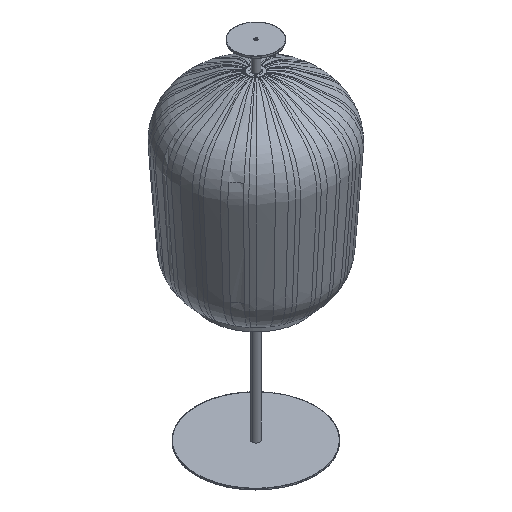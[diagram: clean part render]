
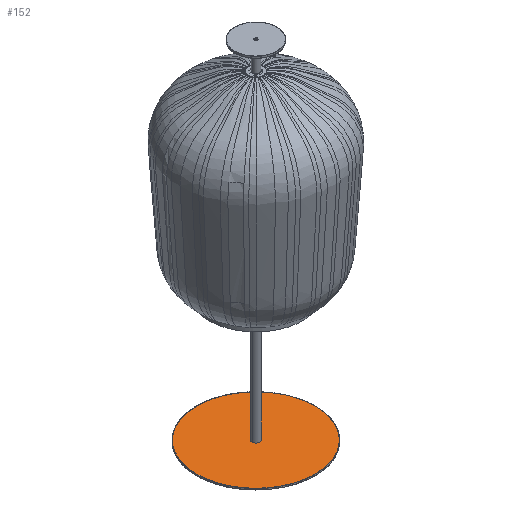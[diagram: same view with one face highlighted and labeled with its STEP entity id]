
A CAD part, isometric view. The second image highlights one B-rep face of the part: STEP entity #152.
In plain terms, the highlighted planar face has unit normal (0, 0, 1).
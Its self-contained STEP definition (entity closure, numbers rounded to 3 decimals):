
#25=FACE_BOUND('',#430,.T.);
#152=ADVANCED_FACE('',(#287,#25),#2007,.T.);
#287=FACE_OUTER_BOUND('',#429,.T.);
#429=EDGE_LOOP('',(#1025,#1026));
#430=EDGE_LOOP('',(#1027,#1028));
#1025=ORIENTED_EDGE('',*,*,#1406,.T.);
#1026=ORIENTED_EDGE('',*,*,#1413,.T.);
#1027=ORIENTED_EDGE('',*,*,#1392,.F.);
#1028=ORIENTED_EDGE('',*,*,#1391,.F.);
#1391=EDGE_CURVE('',#1981,#1982,#1750,.T.);
#1392=EDGE_CURVE('',#1982,#1981,#1751,.T.);
#1406=EDGE_CURVE('',#1993,#1994,#1764,.T.);
#1413=EDGE_CURVE('',#1994,#1993,#1770,.T.);
#1750=(
BOUNDED_CURVE()
B_SPLINE_CURVE(2,(#33934,#33935,#33936,#33937,#33938),.UNSPECIFIED.,.F.,
 .F.)
B_SPLINE_CURVE_WITH_KNOTS((3,2,3),(-31.416,-15.708,0.),
 .UNSPECIFIED.)
CURVE()
GEOMETRIC_REPRESENTATION_ITEM()
RATIONAL_B_SPLINE_CURVE((1.,0.707,1.,0.707,1.))
REPRESENTATION_ITEM('')
);
#1751=(
BOUNDED_CURVE()
B_SPLINE_CURVE(2,(#33939,#33940,#33941,#33942,#33943),.UNSPECIFIED.,.F.,
 .F.)
B_SPLINE_CURVE_WITH_KNOTS((3,2,3),(-62.832,-47.124,
-31.416),.UNSPECIFIED.)
CURVE()
GEOMETRIC_REPRESENTATION_ITEM()
RATIONAL_B_SPLINE_CURVE((1.,0.707,1.,0.707,1.))
REPRESENTATION_ITEM('')
);
#1764=(
BOUNDED_CURVE()
B_SPLINE_CURVE(3,(#34033,#34034,#34035,#34036,#34037,#34038,#34039,#34040,
#34041,#34042,#34043,#34044,#34045,#34046,#34047,#34048,#34049,#34050,#34051,
#34052,#34053,#34054,#34055,#34056,#34057),.UNSPECIFIED.,.F.,.F.)
B_SPLINE_CURVE_WITH_KNOTS((4,3,3,3,3,3,3,3,4),(0.,61.122,121.343,
181.564,242.686,303.808,364.029,424.25,
485.372),.UNSPECIFIED.)
CURVE()
GEOMETRIC_REPRESENTATION_ITEM()
RATIONAL_B_SPLINE_CURVE((1.,1.,1.,1.,1.,1.,1.,1.,1.,1.,1.,1.,1.,1.,1.,1.,
1.,1.,1.,1.,1.,1.,1.,1.,1.))
REPRESENTATION_ITEM('')
);
#1770=(
BOUNDED_CURVE()
B_SPLINE_CURVE(3,(#34147,#34148,#34149,#34150,#34151,#34152,#34153,#34154,
#34155,#34156,#34157,#34158,#34159,#34160,#34161,#34162,#34163,#34164,#34165,
#34166,#34167,#34168,#34169,#34170,#34171),.UNSPECIFIED.,.F.,.F.)
B_SPLINE_CURVE_WITH_KNOTS((4,3,3,3,3,3,3,3,4),(485.372,546.494,
606.715,666.936,728.059,789.181,849.402,
909.623,970.745),.UNSPECIFIED.)
CURVE()
GEOMETRIC_REPRESENTATION_ITEM()
RATIONAL_B_SPLINE_CURVE((1.,1.,1.,1.,1.,
1.,1.,1.,1.,1.,
1.,1.,1.,1.,1.,
1.,1.,1.,1.,1.,
1.,1.,1.,1.,1.))
REPRESENTATION_ITEM('')
);
#1981=VERTEX_POINT('',#33904);
#1982=VERTEX_POINT('',#33905);
#1993=VERTEX_POINT('',#33916);
#1994=VERTEX_POINT('',#33917);
#2007=PLANE('',#2243);
#2243=AXIS2_PLACEMENT_3D('',#33763,#2280,$);
#2280=DIRECTION('',(0.,0.,1.));
#33763=CARTESIAN_POINT('',(14.412,9.085,14.));
#33904=CARTESIAN_POINT('',(189.94,199.516,14.));
#33905=CARTESIAN_POINT('',(209.94,199.516,14.));
#33916=CARTESIAN_POINT('',(354.44,199.516,14.));
#33917=CARTESIAN_POINT('',(45.434,199.516,14.));
#33934=CARTESIAN_POINT('',(189.94,199.516,14.));
#33935=CARTESIAN_POINT('',(189.94,189.516,14.));
#33936=CARTESIAN_POINT('',(199.94,189.516,14.));
#33937=CARTESIAN_POINT('',(209.94,189.516,14.));
#33938=CARTESIAN_POINT('',(209.94,199.516,14.));
#33939=CARTESIAN_POINT('',(209.94,199.516,14.));
#33940=CARTESIAN_POINT('',(209.94,209.516,14.));
#33941=CARTESIAN_POINT('',(199.94,209.516,14.));
#33942=CARTESIAN_POINT('',(189.94,209.516,14.));
#33943=CARTESIAN_POINT('',(189.94,199.516,14.));
#34033=CARTESIAN_POINT('',(354.44,199.516,14.));
#34034=CARTESIAN_POINT('',(354.453,219.889,14.));
#34035=CARTESIAN_POINT('',(350.363,240.26,14.));
#34036=CARTESIAN_POINT('',(342.511,259.058,14.));
#34037=CARTESIAN_POINT('',(334.774,277.579,14.));
#34038=CARTESIAN_POINT('',(323.385,294.575,14.));
#34039=CARTESIAN_POINT('',(309.192,308.768,14.));
#34040=CARTESIAN_POINT('',(295.,322.961,14.));
#34041=CARTESIAN_POINT('',(278.004,334.352,14.));
#34042=CARTESIAN_POINT('',(259.483,342.087,14.));
#34043=CARTESIAN_POINT('',(240.684,349.938,14.));
#34044=CARTESIAN_POINT('',(220.312,354.023,14.));
#34045=CARTESIAN_POINT('',(199.94,354.023,14.));
#34046=CARTESIAN_POINT('',(179.568,354.023,14.));
#34047=CARTESIAN_POINT('',(159.196,349.938,14.));
#34048=CARTESIAN_POINT('',(140.397,342.087,14.));
#34049=CARTESIAN_POINT('',(121.876,334.352,14.));
#34050=CARTESIAN_POINT('',(104.882,322.961,14.));
#34051=CARTESIAN_POINT('',(90.689,308.768,14.));
#34052=CARTESIAN_POINT('',(76.496,294.575,14.));
#34053=CARTESIAN_POINT('',(65.103,277.58,14.));
#34054=CARTESIAN_POINT('',(57.368,259.058,14.));
#34055=CARTESIAN_POINT('',(49.517,240.259,14.));
#34056=CARTESIAN_POINT('',(45.434,219.888,14.));
#34057=CARTESIAN_POINT('',(45.434,199.516,14.));
#34147=CARTESIAN_POINT('',(45.434,199.516,14.));
#34148=CARTESIAN_POINT('',(45.434,179.144,14.));
#34149=CARTESIAN_POINT('',(49.518,158.772,14.));
#34150=CARTESIAN_POINT('',(57.369,139.973,14.));
#34151=CARTESIAN_POINT('',(65.104,121.451,14.));
#34152=CARTESIAN_POINT('',(76.496,104.456,14.));
#34153=CARTESIAN_POINT('',(90.689,90.263,14.));
#34154=CARTESIAN_POINT('',(104.882,76.071,14.));
#34155=CARTESIAN_POINT('',(121.876,64.68,14.));
#34156=CARTESIAN_POINT('',(140.397,56.945,14.));
#34157=CARTESIAN_POINT('',(159.196,49.094,14.));
#34158=CARTESIAN_POINT('',(179.568,45.009,14.));
#34159=CARTESIAN_POINT('',(199.94,45.009,14.));
#34160=CARTESIAN_POINT('',(220.312,45.009,14.));
#34161=CARTESIAN_POINT('',(240.684,49.094,14.));
#34162=CARTESIAN_POINT('',(259.483,56.945,14.));
#34163=CARTESIAN_POINT('',(278.005,64.68,14.));
#34164=CARTESIAN_POINT('',(295.,76.071,14.));
#34165=CARTESIAN_POINT('',(309.192,90.264,14.));
#34166=CARTESIAN_POINT('',(323.385,104.457,14.));
#34167=CARTESIAN_POINT('',(334.774,121.452,14.));
#34168=CARTESIAN_POINT('',(342.511,139.973,14.));
#34169=CARTESIAN_POINT('',(350.363,158.772,14.));
#34170=CARTESIAN_POINT('',(354.453,179.142,14.));
#34171=CARTESIAN_POINT('',(354.44,199.516,14.));
